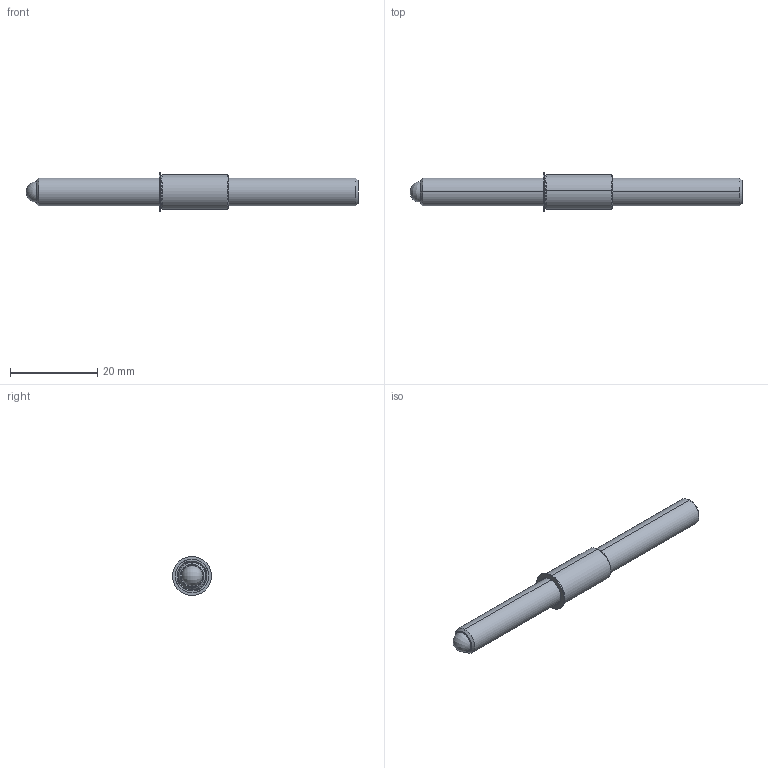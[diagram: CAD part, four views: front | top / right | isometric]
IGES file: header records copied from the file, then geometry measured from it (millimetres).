
Start section: SolidWorks IGES file using analytic representation for surfaces
Global section: file name: C:\Users\workpc\Desktop\KMA Solidworks\TSB250-80-3000_625-AA.IGS; native system: SolidWorks 2013; preprocessor: SolidWorks 2013; author: workpc; date: 130314.090521; units: inch
Bounding box: 76.2 x 8.94 x 8.94 mm (x, y, z)
Surface area: 2052.8 mm2 (no closed solid volume)
Topology: 0 solids, 0 shells, 33 faces, 406 edges, 402 vertices
Faces by surface type: revolution 22, bspline 11
